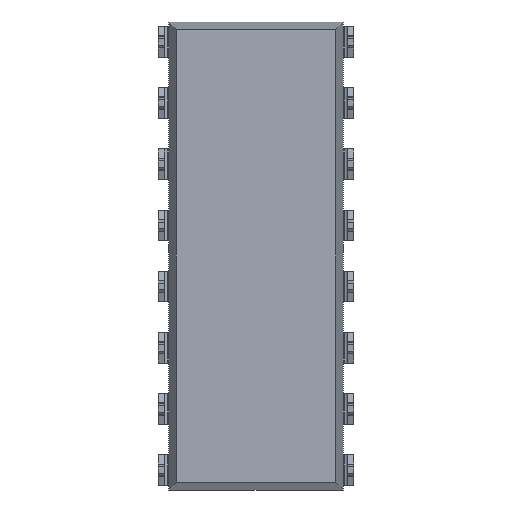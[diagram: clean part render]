
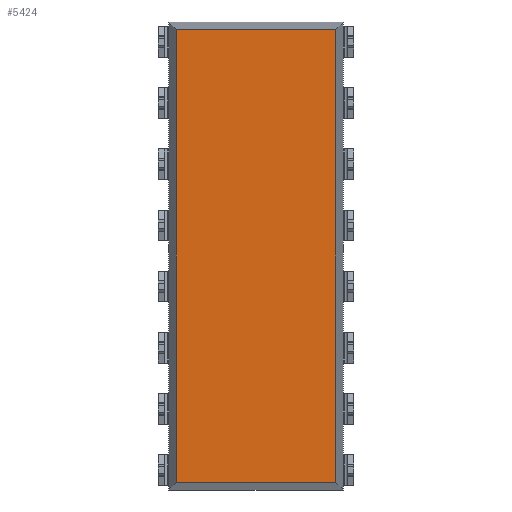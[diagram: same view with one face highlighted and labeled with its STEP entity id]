
A CAD part, front view. The second image highlights one B-rep face of the part: STEP entity #5424.
In plain terms, the highlighted planar face has unit normal (0, -1, 0).
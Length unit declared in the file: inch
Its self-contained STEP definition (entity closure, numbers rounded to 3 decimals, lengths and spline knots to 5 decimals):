
#188 = CARTESIAN_POINT ( 'NONE',  ( 0., 0.03, 0. ) ) ;
#368 = EDGE_CURVE ( 'NONE', #6401, #8796, #4297, .T. ) ;
#897 = EDGE_LOOP ( 'NONE', ( #5058, #1799, #9737, #5746 ) ) ;
#1479 = CARTESIAN_POINT ( 'NONE',  ( -0.13016, 0.03, 0.37016 ) ) ;
#1555 = FACE_OUTER_BOUND ( 'NONE', #897, .T. ) ;
#1799 = ORIENTED_EDGE ( 'NONE', *, *, #7862, .T. ) ;
#2269 = DIRECTION ( 'NONE',  ( 1., 0., 0. ) ) ;
#2428 = CARTESIAN_POINT ( 'NONE',  ( -0.13016, 0.03, 0.3825 ) ) ;
#2515 = LINE ( 'NONE', #8357, #9327 ) ;
#3425 = EDGE_CURVE ( 'NONE', #9104, #5496, #2515, .T. ) ;
#3714 = VECTOR ( 'NONE', #9588, 39.37008 ) ;
#4297 = LINE ( 'NONE', #9554, #3714 ) ;
#4656 = CARTESIAN_POINT ( 'NONE',  ( 0.13016, 0.03, -0.3825 ) ) ;
#4727 = CARTESIAN_POINT ( 'NONE',  ( -0.13016, 0.03, -0.37016 ) ) ;
#4875 = VECTOR ( 'NONE', #5380, 39.37008 ) ;
#5058 = ORIENTED_EDGE ( 'NONE', *, *, #3425, .T. ) ;
#5380 = DIRECTION ( 'NONE',  ( 0., 0., -1. ) ) ;
#5398 = LINE ( 'NONE', #4656, #6614 ) ;
#5424 = ADVANCED_FACE ( 'NONE', ( #1555 ), #5439, .T. ) ;
#5439 = PLANE ( 'NONE',  #8596 ) ;
#5496 = VERTEX_POINT ( 'NONE', #7793 ) ;
#5716 = CARTESIAN_POINT ( 'NONE',  ( 0.13016, 0.03, 0.37016 ) ) ;
#5746 = ORIENTED_EDGE ( 'NONE', *, *, #8994, .T. ) ;
#6048 = DIRECTION ( 'NONE',  ( 0., 0., 1. ) ) ;
#6401 = VERTEX_POINT ( 'NONE', #5716 ) ;
#6614 = VECTOR ( 'NONE', #6048, 39.37008 ) ;
#6993 = DIRECTION ( 'NONE',  ( 0., -1., 0. ) ) ;
#7793 = CARTESIAN_POINT ( 'NONE',  ( 0.13016, 0.03, -0.37016 ) ) ;
#7862 = EDGE_CURVE ( 'NONE', #5496, #6401, #5398, .T. ) ;
#8357 = CARTESIAN_POINT ( 'NONE',  ( -0.1425, 0.03, -0.37016 ) ) ;
#8596 = AXIS2_PLACEMENT_3D ( 'NONE', #188, #6993, #9036 ) ;
#8796 = VERTEX_POINT ( 'NONE', #1479 ) ;
#8973 = LINE ( 'NONE', #2428, #4875 ) ;
#8994 = EDGE_CURVE ( 'NONE', #8796, #9104, #8973, .T. ) ;
#9036 = DIRECTION ( 'NONE',  ( 0., 0., -1. ) ) ;
#9104 = VERTEX_POINT ( 'NONE', #4727 ) ;
#9327 = VECTOR ( 'NONE', #2269, 39.37008 ) ;
#9554 = CARTESIAN_POINT ( 'NONE',  ( 0.1425, 0.03, 0.37016 ) ) ;
#9588 = DIRECTION ( 'NONE',  ( -1., 0., 0. ) ) ;
#9737 = ORIENTED_EDGE ( 'NONE', *, *, #368, .T. ) ;
